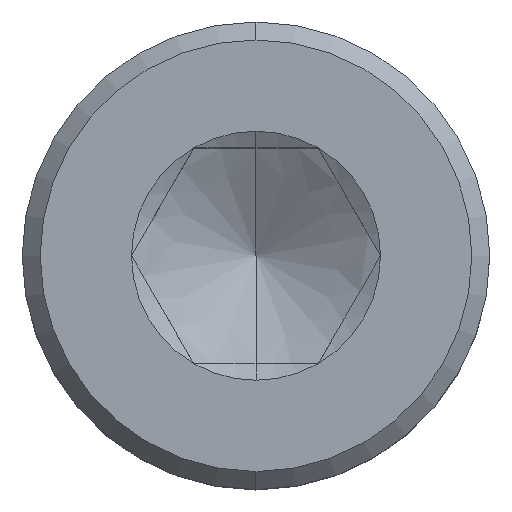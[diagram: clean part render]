
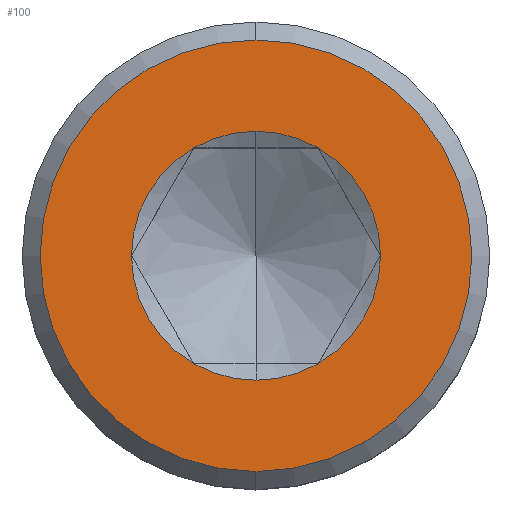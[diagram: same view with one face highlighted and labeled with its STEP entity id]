
A CAD part, top view. The second image highlights one B-rep face of the part: STEP entity #100.
In plain terms, the highlighted planar face has unit normal (0, 0, 1).
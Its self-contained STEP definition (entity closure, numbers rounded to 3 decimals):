
#47=FACE_BOUND('',#174,.F.);
#51=PLANE('',#902);
#100=ADVANCED_FACE('',(#47,#137),#51,.T.);
#137=FACE_OUTER_BOUND('',#175,.F.);
#174=EDGE_LOOP('',(#218,#219,#220,#221,#222,#223,#224,#225,#226,#227,#228,
#229,#230,#231,#232,#233));
#175=EDGE_LOOP('',(#234,#235));
#218=ORIENTED_EDGE('',*,*,#727,.T.);
#219=ORIENTED_EDGE('',*,*,#726,.T.);
#220=ORIENTED_EDGE('',*,*,#729,.T.);
#221=ORIENTED_EDGE('',*,*,#730,.T.);
#222=ORIENTED_EDGE('',*,*,#725,.T.);
#223=ORIENTED_EDGE('',*,*,#724,.T.);
#224=ORIENTED_EDGE('',*,*,#732,.T.);
#225=ORIENTED_EDGE('',*,*,#735,.T.);
#226=ORIENTED_EDGE('',*,*,#723,.T.);
#227=ORIENTED_EDGE('',*,*,#722,.T.);
#228=ORIENTED_EDGE('',*,*,#728,.T.);
#229=ORIENTED_EDGE('',*,*,#733,.T.);
#230=ORIENTED_EDGE('',*,*,#721,.T.);
#231=ORIENTED_EDGE('',*,*,#720,.T.);
#232=ORIENTED_EDGE('',*,*,#734,.T.);
#233=ORIENTED_EDGE('',*,*,#731,.T.);
#234=ORIENTED_EDGE('',*,*,#717,.F.);
#235=ORIENTED_EDGE('',*,*,#714,.F.);
#642=LINE('',#1180,#676);
#643=LINE('',#1181,#677);
#644=LINE('',#1182,#678);
#645=LINE('',#1183,#679);
#646=LINE('',#1184,#680);
#647=LINE('',#1185,#681);
#648=LINE('',#1186,#682);
#649=LINE('',#1187,#683);
#676=VECTOR('',#970,0.003);
#677=VECTOR('',#971,0.003);
#678=VECTOR('',#972,0.003);
#679=VECTOR('',#973,0.003);
#680=VECTOR('',#974,0.003);
#681=VECTOR('',#975,0.003);
#682=VECTOR('',#976,0.003);
#683=VECTOR('',#977,0.003);
#714=EDGE_CURVE('',#862,#861,#796,.T.);
#717=EDGE_CURVE('',#861,#862,#799,.T.);
#720=EDGE_CURVE('',#856,#855,#642,.T.);
#721=EDGE_CURVE('',#854,#856,#643,.T.);
#722=EDGE_CURVE('',#853,#852,#644,.T.);
#723=EDGE_CURVE('',#851,#853,#645,.T.);
#724=EDGE_CURVE('',#850,#849,#646,.T.);
#725=EDGE_CURVE('',#848,#850,#647,.T.);
#726=EDGE_CURVE('',#847,#846,#648,.T.);
#727=EDGE_CURVE('',#845,#847,#649,.T.);
#728=EDGE_CURVE('',#852,#844,#802,.T.);
#729=EDGE_CURVE('',#846,#843,#803,.T.);
#730=EDGE_CURVE('',#843,#848,#804,.T.);
#731=EDGE_CURVE('',#842,#845,#805,.T.);
#732=EDGE_CURVE('',#849,#841,#806,.T.);
#733=EDGE_CURVE('',#844,#854,#807,.T.);
#734=EDGE_CURVE('',#855,#842,#808,.T.);
#735=EDGE_CURVE('',#841,#851,#809,.T.);
#796=CIRCLE('',#881,6.);
#799=CIRCLE('',#884,6.);
#802=CIRCLE('',#887,3.462);
#803=CIRCLE('',#888,3.462);
#804=CIRCLE('',#889,3.462);
#805=CIRCLE('',#890,3.462);
#806=CIRCLE('',#891,3.462);
#807=CIRCLE('',#892,3.462);
#808=CIRCLE('',#893,3.462);
#809=CIRCLE('',#894,3.462);
#841=VERTEX_POINT('',#1144);
#842=VERTEX_POINT('',#1145);
#843=VERTEX_POINT('',#1146);
#844=VERTEX_POINT('',#1147);
#845=VERTEX_POINT('',#1148);
#846=VERTEX_POINT('',#1149);
#847=VERTEX_POINT('',#1150);
#848=VERTEX_POINT('',#1151);
#849=VERTEX_POINT('',#1152);
#850=VERTEX_POINT('',#1153);
#851=VERTEX_POINT('',#1154);
#852=VERTEX_POINT('',#1155);
#853=VERTEX_POINT('',#1156);
#854=VERTEX_POINT('',#1157);
#855=VERTEX_POINT('',#1158);
#856=VERTEX_POINT('',#1159);
#861=VERTEX_POINT('',#1164);
#862=VERTEX_POINT('',#1165);
#881=AXIS2_PLACEMENT_3D('',#1174,#958,#959);
#884=AXIS2_PLACEMENT_3D('',#1177,#964,#965);
#887=AXIS2_PLACEMENT_3D('',#1188,#978,#979);
#888=AXIS2_PLACEMENT_3D('',#1189,#980,#981);
#889=AXIS2_PLACEMENT_3D('',#1190,#982,#983);
#890=AXIS2_PLACEMENT_3D('',#1191,#984,#985);
#891=AXIS2_PLACEMENT_3D('',#1192,#986,#987);
#892=AXIS2_PLACEMENT_3D('',#1193,#988,#989);
#893=AXIS2_PLACEMENT_3D('',#1194,#990,#991);
#894=AXIS2_PLACEMENT_3D('',#1195,#992,#993);
#902=AXIS2_PLACEMENT_3D('',#1319,#1028,#1029);
#958=DIRECTION('',(0.,0.,1.));
#959=DIRECTION('',(0.,1.,0.));
#964=DIRECTION('',(0.,0.,1.));
#965=DIRECTION('',(0.,-1.,0.));
#970=DIRECTION('',(1.,0.,0.));
#971=DIRECTION('',(0.5,-0.866,0.));
#972=DIRECTION('',(-0.5,-0.866,0.));
#973=DIRECTION('',(-1.,0.,0.));
#974=DIRECTION('',(-1.,0.,0.));
#975=DIRECTION('',(-0.5,0.866,0.));
#976=DIRECTION('',(0.5,0.866,0.));
#977=DIRECTION('',(1.,0.,0.));
#978=DIRECTION('',(0.,0.,1.));
#979=DIRECTION('',(-0.5,0.866,0.));
#980=DIRECTION('',(0.,0.,1.));
#981=DIRECTION('',(0.5,-0.866,0.));
#982=DIRECTION('',(0.,0.,1.));
#983=DIRECTION('',(1.,0.,0.));
#984=DIRECTION('',(0.,0.,1.));
#985=DIRECTION('',(0.,-1.,0.));
#986=DIRECTION('',(0.,0.,1.));
#987=DIRECTION('',(0.499,0.867,0.));
#988=DIRECTION('',(0.,0.,1.));
#989=DIRECTION('',(-1.,0.,0.));
#990=DIRECTION('',(0.,0.,1.));
#991=DIRECTION('',(-0.499,-0.867,0.));
#992=DIRECTION('',(0.,0.,1.));
#993=DIRECTION('',(0.,1.,0.));
#1028=DIRECTION('',(0.,0.,1.));
#1029=DIRECTION('',(-1.,0.,0.));
#1144=CARTESIAN_POINT('',(-26.868,865.819,412.61));
#1145=CARTESIAN_POINT('',(-26.868,858.895,412.61));
#1146=CARTESIAN_POINT('',(-23.406,862.357,412.61));
#1147=CARTESIAN_POINT('',(-30.33,862.357,412.61));
#1148=CARTESIAN_POINT('',(-25.141,859.357,412.61));
#1149=CARTESIAN_POINT('',(-25.136,859.359,412.61));
#1150=CARTESIAN_POINT('',(-25.137,859.357,412.61));
#1151=CARTESIAN_POINT('',(-25.136,865.354,412.61));
#1152=CARTESIAN_POINT('',(-25.141,865.357,412.61));
#1153=CARTESIAN_POINT('',(-25.137,865.357,412.61));
#1154=CARTESIAN_POINT('',(-28.596,865.357,412.61));
#1155=CARTESIAN_POINT('',(-28.601,865.354,412.61));
#1156=CARTESIAN_POINT('',(-28.599,865.357,412.61));
#1157=CARTESIAN_POINT('',(-28.601,859.359,412.61));
#1158=CARTESIAN_POINT('',(-28.596,859.357,412.61));
#1159=CARTESIAN_POINT('',(-28.599,859.357,412.61));
#1164=CARTESIAN_POINT('',(-26.868,856.357,412.61));
#1165=CARTESIAN_POINT('',(-26.868,868.357,412.61));
#1174=CARTESIAN_POINT('',(-26.868,862.357,412.61));
#1177=CARTESIAN_POINT('',(-26.868,862.357,412.61));
#1180=CARTESIAN_POINT('',(-28.599,859.357,412.61));
#1181=CARTESIAN_POINT('',(-28.601,859.359,412.61));
#1182=CARTESIAN_POINT('',(-28.599,865.357,412.61));
#1183=CARTESIAN_POINT('',(-28.596,865.357,412.61));
#1184=CARTESIAN_POINT('',(-25.137,865.357,412.61));
#1185=CARTESIAN_POINT('',(-25.136,865.354,412.61));
#1186=CARTESIAN_POINT('',(-25.137,859.357,412.61));
#1187=CARTESIAN_POINT('',(-25.141,859.357,412.61));
#1188=CARTESIAN_POINT('',(-26.868,862.357,412.61));
#1189=CARTESIAN_POINT('',(-26.868,862.357,412.61));
#1190=CARTESIAN_POINT('',(-26.868,862.357,412.61));
#1191=CARTESIAN_POINT('',(-26.868,862.357,412.61));
#1192=CARTESIAN_POINT('',(-26.868,862.357,412.61));
#1193=CARTESIAN_POINT('',(-26.868,862.357,412.61));
#1194=CARTESIAN_POINT('',(-26.868,862.357,412.61));
#1195=CARTESIAN_POINT('',(-26.868,862.357,412.61));
#1319=CARTESIAN_POINT('',(-20.368,868.857,412.61));
